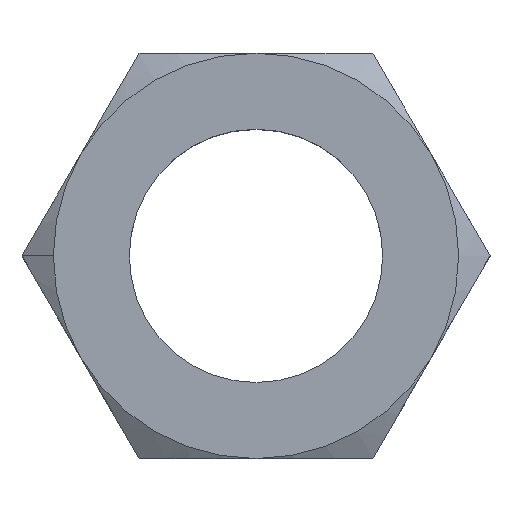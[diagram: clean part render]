
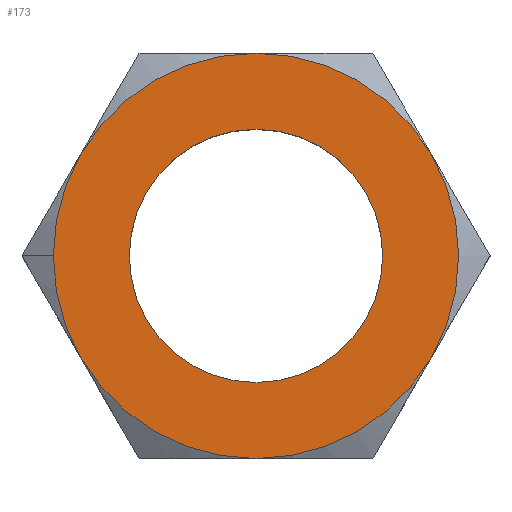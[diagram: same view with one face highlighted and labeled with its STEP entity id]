
A CAD part, top view. The second image highlights one B-rep face of the part: STEP entity #173.
In plain terms, the highlighted planar face has unit normal (0, 0, 1).
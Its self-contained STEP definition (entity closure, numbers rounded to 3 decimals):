
#40 = VERTEX_POINT ( 'NONE', #295 ) ;
#48 = VERTEX_POINT ( 'NONE', #405 ) ;
#58 = ORIENTED_EDGE ( 'NONE', *, *, #59, .F. ) ;
#59 = EDGE_CURVE ( 'NONE', #123, #122, #353, .T. ) ;
#60 = EDGE_LOOP ( 'NONE', ( #214, #216, #75, #77, #79, #80, #82 ) ) ;
#75 = ORIENTED_EDGE ( 'NONE', *, *, #76, .T. ) ;
#76 = EDGE_CURVE ( 'NONE', #196, #40, #326, .T. ) ;
#77 = ORIENTED_EDGE ( 'NONE', *, *, #78, .T. ) ;
#78 = EDGE_CURVE ( 'NONE', #40, #143, #321, .T. ) ;
#79 = ORIENTED_EDGE ( 'NONE', *, *, #142, .T. ) ;
#80 = ORIENTED_EDGE ( 'NONE', *, *, #81, .T. ) ;
#81 = EDGE_CURVE ( 'NONE', #144, #187, #316, .T. ) ;
#82 = ORIENTED_EDGE ( 'NONE', *, *, #84, .T. ) ;
#84 = EDGE_CURVE ( 'NONE', #187, #116, #311, .T. ) ;
#116 = VERTEX_POINT ( 'NONE', #450 ) ;
#122 = VERTEX_POINT ( 'NONE', #493 ) ;
#123 = VERTEX_POINT ( 'NONE', #491 ) ;
#142 = EDGE_CURVE ( 'NONE', #143, #144, #509, .T. ) ;
#143 = VERTEX_POINT ( 'NONE', #504 ) ;
#144 = VERTEX_POINT ( 'NONE', #503 ) ;
#153 = EDGE_CURVE ( 'NONE', #122, #123, #541, .T. ) ;
#173 = ADVANCED_FACE ( 'NONE', ( #589, #585 ), #584, .T. ) ;
#174 = EDGE_LOOP ( 'NONE', ( #175, #58 ) ) ;
#175 = ORIENTED_EDGE ( 'NONE', *, *, #153, .F. ) ;
#187 = VERTEX_POINT ( 'NONE', #729 ) ;
#196 = VERTEX_POINT ( 'NONE', #736 ) ;
#214 = ORIENTED_EDGE ( 'NONE', *, *, #215, .T. ) ;
#215 = EDGE_CURVE ( 'NONE', #116, #48, #815, .T. ) ;
#216 = ORIENTED_EDGE ( 'NONE', *, *, #217, .T. ) ;
#217 = EDGE_CURVE ( 'NONE', #48, #196, #810, .T. ) ;
#295 = CARTESIAN_POINT ( 'NONE',  ( -6.928, 4., 2.5 ) ) ;
#307 = DIRECTION ( 'NONE',  ( 1., 0., 0. ) ) ;
#308 = DIRECTION ( 'NONE',  ( 0., 0., 1. ) ) ;
#309 = CARTESIAN_POINT ( 'NONE',  ( 0., 0., 2.5 ) ) ;
#310 = AXIS2_PLACEMENT_3D ( 'NONE', #309, #308, #307 ) ;
#311 = CIRCLE ( 'NONE', #310, 8. ) ;
#312 = DIRECTION ( 'NONE',  ( 1., 0., 0. ) ) ;
#313 = DIRECTION ( 'NONE',  ( 0., 0., 1. ) ) ;
#314 = CARTESIAN_POINT ( 'NONE',  ( 0., 0., 2.5 ) ) ;
#315 = AXIS2_PLACEMENT_3D ( 'NONE', #314, #313, #312 ) ;
#316 = CIRCLE ( 'NONE', #315, 8. ) ;
#317 = DIRECTION ( 'NONE',  ( 1., 0., 0. ) ) ;
#318 = DIRECTION ( 'NONE',  ( 0., 0., 1. ) ) ;
#319 = CARTESIAN_POINT ( 'NONE',  ( 0., 0., 2.5 ) ) ;
#320 = AXIS2_PLACEMENT_3D ( 'NONE', #319, #318, #317 ) ;
#321 = CIRCLE ( 'NONE', #320, 8. ) ;
#322 = DIRECTION ( 'NONE',  ( 1., 0., 0. ) ) ;
#323 = DIRECTION ( 'NONE',  ( 0., 0., 1. ) ) ;
#324 = CARTESIAN_POINT ( 'NONE',  ( 0., 0., 2.5 ) ) ;
#325 = AXIS2_PLACEMENT_3D ( 'NONE', #324, #323, #322 ) ;
#326 = CIRCLE ( 'NONE', #325, 8. ) ;
#348 = DIRECTION ( 'NONE',  ( 1., 0., 0. ) ) ;
#349 = DIRECTION ( 'NONE',  ( 0., 0., 1. ) ) ;
#350 = CARTESIAN_POINT ( 'NONE',  ( 0., 0., 2.5 ) ) ;
#351 = AXIS2_PLACEMENT_3D ( 'NONE', #350, #349, #348 ) ;
#353 = CIRCLE ( 'NONE', #351, 5. ) ;
#405 = CARTESIAN_POINT ( 'NONE',  ( 6.928, 4., 2.5 ) ) ;
#450 = CARTESIAN_POINT ( 'NONE',  ( 6.928, -4., 2.5 ) ) ;
#491 = CARTESIAN_POINT ( 'NONE',  ( 5., 0., 2.5 ) ) ;
#493 = CARTESIAN_POINT ( 'NONE',  ( -5., 0., 2.5 ) ) ;
#503 = CARTESIAN_POINT ( 'NONE',  ( -6.928, -4., 2.5 ) ) ;
#504 = CARTESIAN_POINT ( 'NONE',  ( -8., 0., 2.5 ) ) ;
#505 = DIRECTION ( 'NONE',  ( 1., 0., 0. ) ) ;
#506 = DIRECTION ( 'NONE',  ( 0., 0., 1. ) ) ;
#507 = CARTESIAN_POINT ( 'NONE',  ( 0., 0., 2.5 ) ) ;
#508 = AXIS2_PLACEMENT_3D ( 'NONE', #507, #506, #505 ) ;
#509 = CIRCLE ( 'NONE', #508, 8. ) ;
#537 = DIRECTION ( 'NONE',  ( 1., 0., 0. ) ) ;
#538 = DIRECTION ( 'NONE',  ( 0., 0., 1. ) ) ;
#539 = CARTESIAN_POINT ( 'NONE',  ( 0., 0., 2.5 ) ) ;
#540 = AXIS2_PLACEMENT_3D ( 'NONE', #539, #538, #537 ) ;
#541 = CIRCLE ( 'NONE', #540, 5. ) ;
#580 = DIRECTION ( 'NONE',  ( 1., 0., 0. ) ) ;
#581 = DIRECTION ( 'NONE',  ( 0., 0., 1. ) ) ;
#582 = CARTESIAN_POINT ( 'NONE',  ( 4.619, 8., 2.5 ) ) ;
#583 = AXIS2_PLACEMENT_3D ( 'NONE', #582, #581, #580 ) ;
#584 = PLANE ( 'NONE',  #583 ) ;
#585 = FACE_OUTER_BOUND ( 'NONE', #60, .T. ) ;
#589 = FACE_BOUND ( 'NONE', #174, .T. ) ;
#729 = CARTESIAN_POINT ( 'NONE',  ( 0., -8., 2.5 ) ) ;
#736 = CARTESIAN_POINT ( 'NONE',  ( 0., 8., 2.5 ) ) ;
#806 = DIRECTION ( 'NONE',  ( 1., 0., 0. ) ) ;
#807 = DIRECTION ( 'NONE',  ( 0., 0., 1. ) ) ;
#808 = CARTESIAN_POINT ( 'NONE',  ( 0., 0., 2.5 ) ) ;
#809 = AXIS2_PLACEMENT_3D ( 'NONE', #808, #807, #806 ) ;
#810 = CIRCLE ( 'NONE', #809, 8. ) ;
#811 = DIRECTION ( 'NONE',  ( 1., 0., 0. ) ) ;
#812 = DIRECTION ( 'NONE',  ( 0., 0., 1. ) ) ;
#813 = CARTESIAN_POINT ( 'NONE',  ( 0., 0., 2.5 ) ) ;
#814 = AXIS2_PLACEMENT_3D ( 'NONE', #813, #812, #811 ) ;
#815 = CIRCLE ( 'NONE', #814, 8. ) ;
